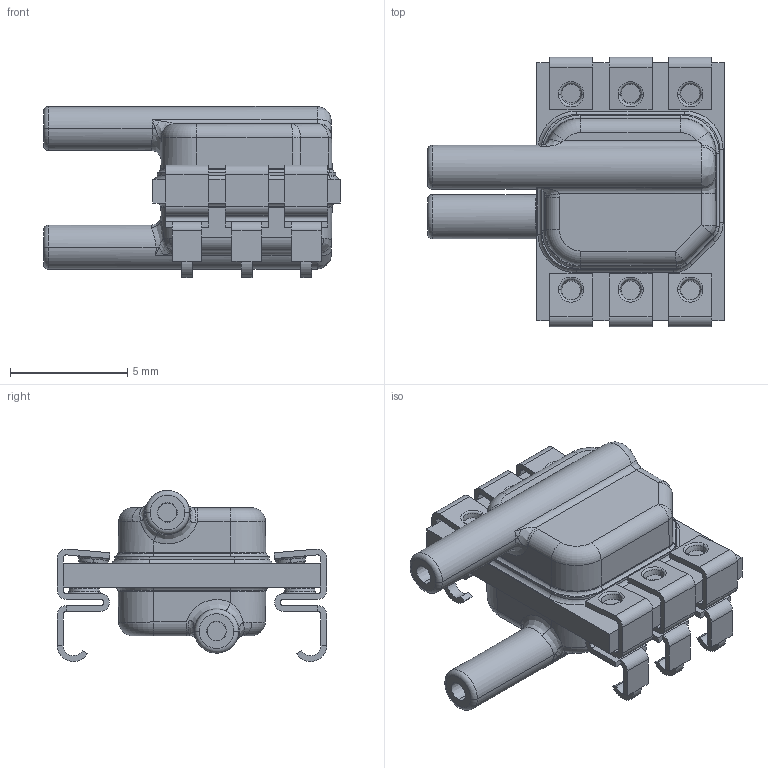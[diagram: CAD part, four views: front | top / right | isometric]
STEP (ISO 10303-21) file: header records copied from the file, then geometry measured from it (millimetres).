
FILE_DESCRIPTION((''),'2;1');
FILE_NAME('PRT0001','2015-04-29T',('e490569'),(''),'PRO/ENGINEER BY PARAMETRIC TECHNOLOGY CORPORATION, 2014430','PRO/ENGINEER BY PARAMETRIC TECHNOLOGY CORPORATION, 2014430','');
FILE_SCHEMA(('CONFIG_CONTROL_DESIGN'));
Length unit declared in the file: millimetre
Products named in the file (1): PRT0001
Bounding box: 12.65 x 11.5 x 7.3 mm (x, y, z)
Volume: 348.5 mm3; surface area: 600.6 mm2
Topology: 1 solids, 2 shells, 534 faces, 1321 edges, 795 vertices
Faces by surface type: plane 216, cylinder 121, torus 87, bspline 58, cone 52
Entity records: 18188 total; most frequent: CARTESIAN_POINT 5727, ORIENTED_EDGE 2642, DIRECTION 2583, EDGE_CURVE 1321, AXIS2_PLACEMENT_3D 966, VERTEX_POINT 795, VECTOR 651, LINE 651
